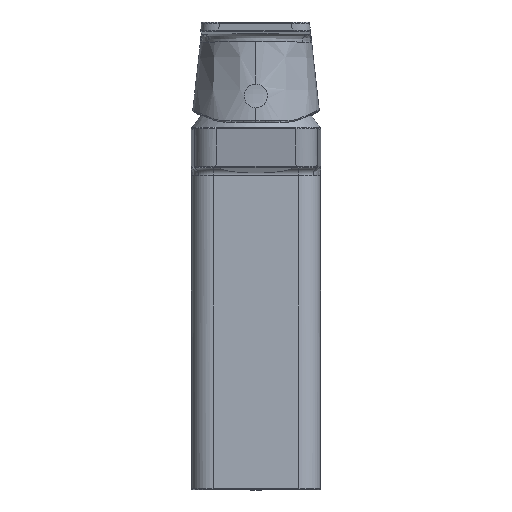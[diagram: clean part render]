
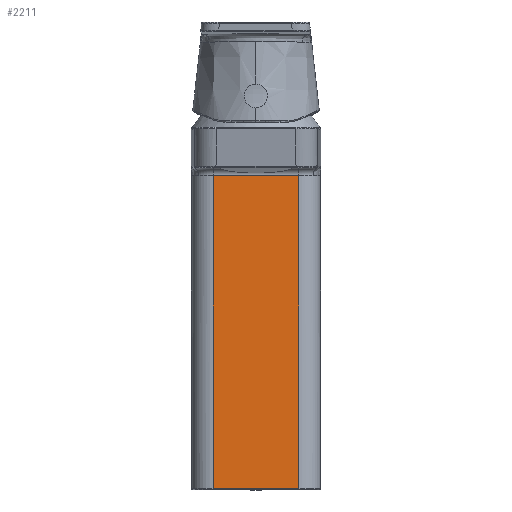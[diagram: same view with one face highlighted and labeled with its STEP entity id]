
A CAD part, top view. The second image highlights one B-rep face of the part: STEP entity #2211.
In plain terms, the highlighted planar face has unit normal (0, 0, 1).
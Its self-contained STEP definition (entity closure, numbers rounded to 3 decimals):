
#100 = LINE ( 'NONE', #2546, #4184 ) ;
#463 = CARTESIAN_POINT ( 'NONE',  ( -23.997, 118., 24.25 ) ) ;
#485 = DIRECTION ( 'NONE',  ( -1., 0., 0. ) ) ;
#515 = CARTESIAN_POINT ( 'NONE',  ( -16.081, 0.5, 24.25 ) ) ;
#608 = VERTEX_POINT ( 'NONE', #7381 ) ;
#729 = PLANE ( 'NONE',  #2273 ) ;
#939 = LINE ( 'NONE', #3258, #4519 ) ;
#1013 = ORIENTED_EDGE ( 'NONE', *, *, #6852, .T. ) ;
#1974 = DIRECTION ( 'NONE',  ( 1., 0., 0. ) ) ;
#2211 = ADVANCED_FACE ( 'NONE', ( #6360 ), #729, .F. ) ;
#2273 = AXIS2_PLACEMENT_3D ( 'NONE', #4691, #7957, #7273 ) ;
#2348 = EDGE_LOOP ( 'NONE', ( #6667, #1013, #4077, #4847 ) ) ;
#2546 = CARTESIAN_POINT ( 'NONE',  ( 16.081, 149.6, 24.25 ) ) ;
#2627 = LINE ( 'NONE', #463, #5155 ) ;
#3258 = CARTESIAN_POINT ( 'NONE',  ( -16.081, 149.6, 24.25 ) ) ;
#3670 = EDGE_CURVE ( 'NONE', #608, #8262, #2627, .T. ) ;
#3872 = VECTOR ( 'NONE', #1974, 1000. ) ;
#3908 = CARTESIAN_POINT ( 'NONE',  ( -23.997, 0.5, 24.25 ) ) ;
#3952 = DIRECTION ( 'NONE',  ( 0., 1., 0. ) ) ;
#4077 = ORIENTED_EDGE ( 'NONE', *, *, #7855, .T. ) ;
#4184 = VECTOR ( 'NONE', #3952, 1000. ) ;
#4519 = VECTOR ( 'NONE', #7943, 1000. ) ;
#4567 = CARTESIAN_POINT ( 'NONE',  ( 16.081, 0.5, 24.25 ) ) ;
#4691 = CARTESIAN_POINT ( 'NONE',  ( -23.997, 149.6, 24.25 ) ) ;
#4724 = LINE ( 'NONE', #3908, #3872 ) ;
#4810 = CARTESIAN_POINT ( 'NONE',  ( -16.081, 118., 24.25 ) ) ;
#4847 = ORIENTED_EDGE ( 'NONE', *, *, #3670, .T. ) ;
#5155 = VECTOR ( 'NONE', #485, 1000. ) ;
#5585 = VERTEX_POINT ( 'NONE', #515 ) ;
#6360 = FACE_OUTER_BOUND ( 'NONE', #2348, .T. ) ;
#6667 = ORIENTED_EDGE ( 'NONE', *, *, #6907, .T. ) ;
#6852 = EDGE_CURVE ( 'NONE', #5585, #6906, #4724, .T. ) ;
#6906 = VERTEX_POINT ( 'NONE', #4567 ) ;
#6907 = EDGE_CURVE ( 'NONE', #8262, #5585, #939, .T. ) ;
#7273 = DIRECTION ( 'NONE',  ( 1., 0., 0. ) ) ;
#7381 = CARTESIAN_POINT ( 'NONE',  ( 16.081, 118., 24.25 ) ) ;
#7855 = EDGE_CURVE ( 'NONE', #6906, #608, #100, .T. ) ;
#7943 = DIRECTION ( 'NONE',  ( 0., -1., 0. ) ) ;
#7957 = DIRECTION ( 'NONE',  ( 0., 0., -1. ) ) ;
#8262 = VERTEX_POINT ( 'NONE', #4810 ) ;
